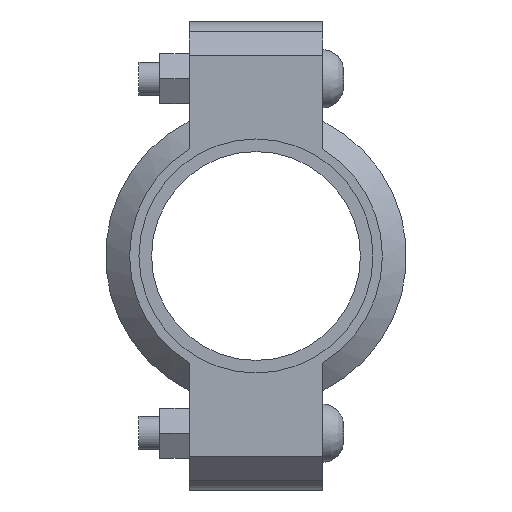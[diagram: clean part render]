
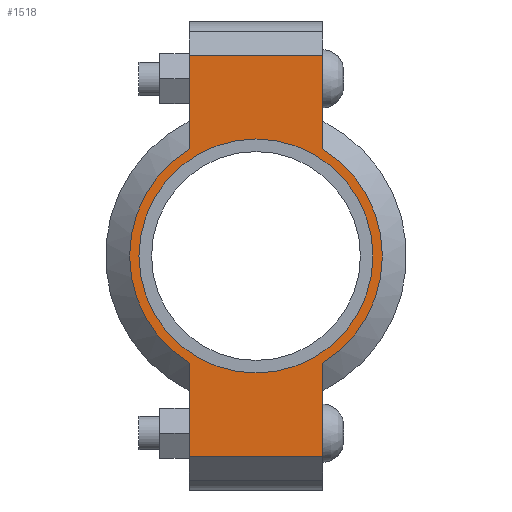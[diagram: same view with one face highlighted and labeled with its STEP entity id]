
A CAD part, left-side view. The second image highlights one B-rep face of the part: STEP entity #1518.
In plain terms, the highlighted planar face has unit normal (-1, 0, 0) as drawn and (0, 0, 1) by its records, which use the part's own axes.
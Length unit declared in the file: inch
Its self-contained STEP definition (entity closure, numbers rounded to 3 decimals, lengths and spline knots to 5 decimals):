
#142=LINE('',#2649,#235);
#150=LINE('',#2685,#243);
#157=LINE('',#2706,#250);
#166=LINE('',#2738,#259);
#167=LINE('',#2742,#260);
#168=LINE('',#2744,#261);
#235=VECTOR('',#2165,0.3937);
#243=VECTOR('',#2181,0.3937);
#250=VECTOR('',#2200,0.3937);
#259=VECTOR('',#2225,0.3937);
#260=VECTOR('',#2230,0.3937);
#261=VECTOR('',#2231,0.3937);
#317=FACE_BOUND('',#495,.T.);
#389=FACE_OUTER_BOUND('',#494,.T.);
#494=EDGE_LOOP('',(#1259,#1260,#1261,#1262,#1263,#1264,#1265,#1266));
#495=EDGE_LOOP('',(#1267));
#567=CIRCLE('',#1737,1.75);
#593=CIRCLE('',#1796,1.89);
#594=CIRCLE('',#1797,1.89);
#659=VERTEX_POINT('',#2465);
#702=VERTEX_POINT('',#2646);
#703=VERTEX_POINT('',#2648);
#714=VERTEX_POINT('',#2680);
#715=VERTEX_POINT('',#2684);
#722=VERTEX_POINT('',#2703);
#723=VERTEX_POINT('',#2705);
#733=VERTEX_POINT('',#2741);
#734=VERTEX_POINT('',#2743);
#815=EDGE_CURVE('',#659,#659,#567,.T.);
#876=EDGE_CURVE('',#703,#702,#142,.T.);
#890=EDGE_CURVE('',#715,#714,#150,.T.);
#900=EDGE_CURVE('',#723,#722,#157,.T.);
#915=EDGE_CURVE('',#715,#702,#166,.T.);
#916=EDGE_CURVE('',#714,#723,#593,.T.);
#917=EDGE_CURVE('',#733,#722,#167,.T.);
#918=EDGE_CURVE('',#733,#734,#168,.T.);
#919=EDGE_CURVE('',#734,#703,#594,.T.);
#1259=ORIENTED_EDGE('',*,*,#915,.F.);
#1260=ORIENTED_EDGE('',*,*,#890,.T.);
#1261=ORIENTED_EDGE('',*,*,#916,.T.);
#1262=ORIENTED_EDGE('',*,*,#900,.T.);
#1263=ORIENTED_EDGE('',*,*,#917,.F.);
#1264=ORIENTED_EDGE('',*,*,#918,.T.);
#1265=ORIENTED_EDGE('',*,*,#919,.T.);
#1266=ORIENTED_EDGE('',*,*,#876,.T.);
#1267=ORIENTED_EDGE('',*,*,#815,.T.);
#1360=PLANE('',#1795);
#1518=ADVANCED_FACE('',(#389,#317),#1360,.T.);
#1737=AXIS2_PLACEMENT_3D('',#2467,#2041,#2042);
#1795=AXIS2_PLACEMENT_3D('',#2739,#2226,#2227);
#1796=AXIS2_PLACEMENT_3D('',#2740,#2228,#2229);
#1797=AXIS2_PLACEMENT_3D('',#2745,#2232,#2233);
#2041=DIRECTION('center_axis',(0.,0.,-1.));
#2042=DIRECTION('ref_axis',(-1.,0.,0.));
#2165=DIRECTION('',(-1.,0.,0.));
#2181=DIRECTION('',(1.,0.,0.));
#2200=DIRECTION('',(1.,0.,0.));
#2225=DIRECTION('',(0.,1.,0.));
#2226=DIRECTION('center_axis',(0.,0.,1.));
#2227=DIRECTION('ref_axis',(1.,0.,0.));
#2228=DIRECTION('center_axis',(0.,0.,1.));
#2229=DIRECTION('ref_axis',(-1.,0.,0.));
#2230=DIRECTION('',(0.,-1.,0.));
#2231=DIRECTION('',(-1.,0.,0.));
#2232=DIRECTION('center_axis',(0.,0.,1.));
#2233=DIRECTION('ref_axis',(-1.,0.,0.));
#2465=CARTESIAN_POINT('',(1.75,0.,0.94));
#2467=CARTESIAN_POINT('Origin',(0.,0.,0.94));
#2646=CARTESIAN_POINT('',(-3.,1.,0.94));
#2648=CARTESIAN_POINT('',(-1.60378,1.,0.94));
#2649=CARTESIAN_POINT('',(-3.5,1.,0.94));
#2680=CARTESIAN_POINT('',(-1.60378,-1.,0.94));
#2684=CARTESIAN_POINT('',(-3.,-1.,0.94));
#2685=CARTESIAN_POINT('',(3.5,-1.,0.94));
#2703=CARTESIAN_POINT('',(3.,-1.,0.94));
#2705=CARTESIAN_POINT('',(1.60378,-1.,0.94));
#2706=CARTESIAN_POINT('',(3.5,-1.,0.94));
#2738=CARTESIAN_POINT('',(-3.,0.5,0.94));
#2739=CARTESIAN_POINT('Origin',(0.,0.,
0.94));
#2740=CARTESIAN_POINT('Origin',(0.,0.,0.94));
#2741=CARTESIAN_POINT('',(3.,1.,0.94));
#2742=CARTESIAN_POINT('',(3.,-0.5,0.94));
#2743=CARTESIAN_POINT('',(1.60378,1.,0.94));
#2744=CARTESIAN_POINT('',(-3.5,1.,0.94));
#2745=CARTESIAN_POINT('Origin',(0.,0.,0.94));
